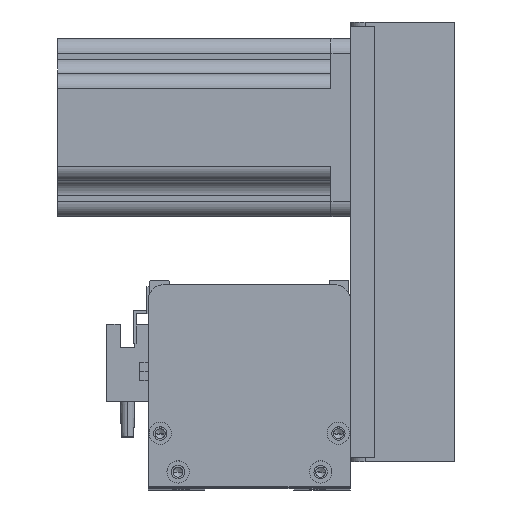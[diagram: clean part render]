
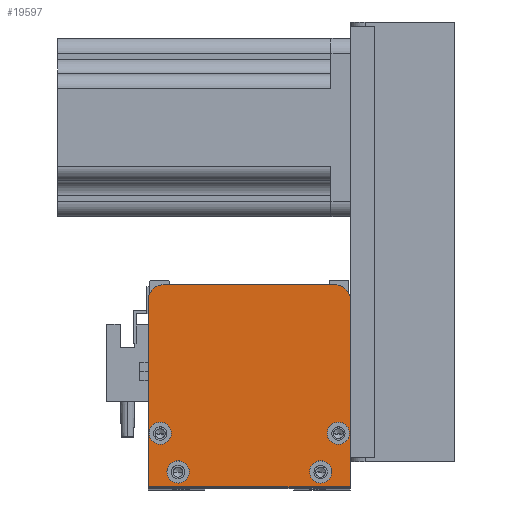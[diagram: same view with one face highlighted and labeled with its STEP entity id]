
A CAD part, top view. The second image highlights one B-rep face of the part: STEP entity #19597.
In plain terms, the highlighted planar face has unit normal (0, 0, 1).
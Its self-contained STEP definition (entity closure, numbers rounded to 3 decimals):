
#33 = VERTEX_POINT ( 'NONE', #32051 ) ;
#227 = ORIENTED_EDGE ( 'NONE', *, *, #37939, .T. ) ;
#356 = ORIENTED_EDGE ( 'NONE', *, *, #33384, .F. ) ;
#443 = CARTESIAN_POINT ( 'NONE',  ( 0., 0., 64. ) ) ;
#958 = CARTESIAN_POINT ( 'NONE',  ( 0., 0., 64. ) ) ;
#1157 = DIRECTION ( 'NONE',  ( 1., 0., 0. ) ) ;
#1579 = ORIENTED_EDGE ( 'NONE', *, *, #30630, .F. ) ;
#1649 = DIRECTION ( 'NONE',  ( 1., 0., 0. ) ) ;
#2023 = DIRECTION ( 'NONE',  ( 1., 0., 0. ) ) ;
#2025 = CARTESIAN_POINT ( 'NONE',  ( 68., 0., 64. ) ) ;
#2621 = CARTESIAN_POINT ( 'NONE',  ( 4., 18., 64. ) ) ;
#2710 = DIRECTION ( 'NONE',  ( 0., 0., 1. ) ) ;
#2852 = CARTESIAN_POINT ( 'NONE',  ( 10., 5., 64. ) ) ;
#2897 = DIRECTION ( 'NONE',  ( 1., 0., 0. ) ) ;
#4249 = EDGE_CURVE ( 'NONE', #51314, #53806, #37775, .T. ) ;
#5397 = CIRCLE ( 'NONE', #55612, 5. ) ;
#5558 = ORIENTED_EDGE ( 'NONE', *, *, #4249, .F. ) ;
#5579 = ORIENTED_EDGE ( 'NONE', *, *, #49804, .T. ) ;
#5935 = DIRECTION ( 'NONE',  ( 1., 0., 0. ) ) ;
#5943 = EDGE_CURVE ( 'NONE', #30566, #42945, #40080, .T. ) ;
#6919 = DIRECTION ( 'NONE',  ( 0., 0., 1. ) ) ;
#7879 = DIRECTION ( 'NONE',  ( 1., 0., 0. ) ) ;
#7958 = VERTEX_POINT ( 'NONE', #41734 ) ;
#8096 = ORIENTED_EDGE ( 'NONE', *, *, #45119, .T. ) ;
#8438 = VECTOR ( 'NONE', #46441, 1000. ) ;
#8457 = VECTOR ( 'NONE', #5935, 1000. ) ;
#9682 = FACE_BOUND ( 'NONE', #42524, .T. ) ;
#9798 = CIRCLE ( 'NONE', #46524, 3.75 ) ;
#10206 = DIRECTION ( 'NONE',  ( 0., 0., 1. ) ) ;
#10436 = ORIENTED_EDGE ( 'NONE', *, *, #24068, .F. ) ;
#10631 = DIRECTION ( 'NONE',  ( -1., 0., 0. ) ) ;
#11410 = EDGE_CURVE ( 'NONE', #53790, #15434, #9798, .T. ) ;
#11419 = VERTEX_POINT ( 'NONE', #958 ) ;
#11984 = ORIENTED_EDGE ( 'NONE', *, *, #11410, .F. ) ;
#13417 = CARTESIAN_POINT ( 'NONE',  ( 67.75, 18., 64. ) ) ;
#15009 = CARTESIAN_POINT ( 'NONE',  ( 58., 5., 64. ) ) ;
#15298 = CARTESIAN_POINT ( 'NONE',  ( 68., 68., 64. ) ) ;
#15311 = ORIENTED_EDGE ( 'NONE', *, *, #22834, .T. ) ;
#15434 = VERTEX_POINT ( 'NONE', #13417 ) ;
#15846 = EDGE_CURVE ( 'NONE', #42945, #33, #5397, .T. ) ;
#16639 = EDGE_LOOP ( 'NONE', ( #54405, #44405 ) ) ;
#16696 = EDGE_LOOP ( 'NONE', ( #1579, #11984 ) ) ;
#16735 = CARTESIAN_POINT ( 'NONE',  ( 13.75, 5., 64. ) ) ;
#16903 = CIRCLE ( 'NONE', #56745, 3.75 ) ;
#17510 = LINE ( 'NONE', #2025, #8457 ) ;
#17617 = DIRECTION ( 'NONE',  ( 0., 1., 0. ) ) ;
#17678 = PLANE ( 'NONE',  #24988 ) ;
#18545 = CARTESIAN_POINT ( 'NONE',  ( 6.25, 5., 64. ) ) ;
#18701 = EDGE_CURVE ( 'NONE', #53806, #51314, #42031, .T. ) ;
#19443 = VERTEX_POINT ( 'NONE', #52358 ) ;
#19590 = CARTESIAN_POINT ( 'NONE',  ( 68., 0., 64. ) ) ;
#19597 = ADVANCED_FACE ( 'NONE', ( #56845, #45033, #9682, #21460, #43637 ), #17678, .T. ) ;
#20858 = CARTESIAN_POINT ( 'NONE',  ( 7.75, 18., 64. ) ) ;
#21394 = VERTEX_POINT ( 'NONE', #53226 ) ;
#21460 = FACE_BOUND ( 'NONE', #22541, .T. ) ;
#22141 = VECTOR ( 'NONE', #10631, 1000. ) ;
#22541 = EDGE_LOOP ( 'NONE', ( #10436, #356 ) ) ;
#22683 = DIRECTION ( 'NONE',  ( 1., 0., 0. ) ) ;
#22834 = EDGE_CURVE ( 'NONE', #11419, #37058, #17510, .T. ) ;
#23943 = DIRECTION ( 'NONE',  ( 1., 0., 0. ) ) ;
#24068 = EDGE_CURVE ( 'NONE', #7958, #21394, #16903, .T. ) ;
#24988 = AXIS2_PLACEMENT_3D ( 'NONE', #443, #44340, #22683 ) ;
#25347 = CARTESIAN_POINT ( 'NONE',  ( 10., 5., 64. ) ) ;
#25496 = DIRECTION ( 'NONE',  ( 0., 0., 1. ) ) ;
#25646 = AXIS2_PLACEMENT_3D ( 'NONE', #25347, #43119, #7879 ) ;
#26477 = CARTESIAN_POINT ( 'NONE',  ( 68., 0., 64. ) ) ;
#28178 = CIRCLE ( 'NONE', #47378, 3.75 ) ;
#28302 = DIRECTION ( 'NONE',  ( 0., 0., 1. ) ) ;
#28323 = AXIS2_PLACEMENT_3D ( 'NONE', #37413, #10206, #23943 ) ;
#28374 = CARTESIAN_POINT ( 'NONE',  ( 0., 0., 64. ) ) ;
#28387 = VECTOR ( 'NONE', #17617, 1000. ) ;
#29122 = CARTESIAN_POINT ( 'NONE',  ( 58., 5., 64. ) ) ;
#29203 = ORIENTED_EDGE ( 'NONE', *, *, #18701, .F. ) ;
#29230 = AXIS2_PLACEMENT_3D ( 'NONE', #45974, #28302, #1649 ) ;
#30566 = VERTEX_POINT ( 'NONE', #36469 ) ;
#30630 = EDGE_CURVE ( 'NONE', #15434, #53790, #37873, .T. ) ;
#31158 = VERTEX_POINT ( 'NONE', #20858 ) ;
#32051 = CARTESIAN_POINT ( 'NONE',  ( 0., 63., 64. ) ) ;
#32402 = DIRECTION ( 'NONE',  ( 1., 0., 0. ) ) ;
#33132 = DIRECTION ( 'NONE',  ( 1., 0., 0. ) ) ;
#33384 = EDGE_CURVE ( 'NONE', #21394, #7958, #28178, .T. ) ;
#34159 = DIRECTION ( 'NONE',  ( 1., 0., 0. ) ) ;
#36131 = DIRECTION ( 'NONE',  ( 0., 0., 1. ) ) ;
#36461 = ORIENTED_EDGE ( 'NONE', *, *, #5943, .T. ) ;
#36469 = CARTESIAN_POINT ( 'NONE',  ( 63., 68., 64. ) ) ;
#37058 = VERTEX_POINT ( 'NONE', #19590 ) ;
#37251 = CARTESIAN_POINT ( 'NONE',  ( 0.25, 18., 64. ) ) ;
#37413 = CARTESIAN_POINT ( 'NONE',  ( 4., 18., 64. ) ) ;
#37775 = CIRCLE ( 'NONE', #38689, 3.75 ) ;
#37873 = CIRCLE ( 'NONE', #37965, 3.75 ) ;
#37939 = EDGE_CURVE ( 'NONE', #33, #11419, #54238, .T. ) ;
#37965 = AXIS2_PLACEMENT_3D ( 'NONE', #54551, #41879, #33132 ) ;
#38563 = CARTESIAN_POINT ( 'NONE',  ( 5., 68., 64. ) ) ;
#38689 = AXIS2_PLACEMENT_3D ( 'NONE', #2852, #25496, #34159 ) ;
#40080 = LINE ( 'NONE', #15298, #22141 ) ;
#40218 = CIRCLE ( 'NONE', #48642, 3.75 ) ;
#41169 = CARTESIAN_POINT ( 'NONE',  ( 64., 18., 64. ) ) ;
#41734 = CARTESIAN_POINT ( 'NONE',  ( 61.75, 5., 64. ) ) ;
#41879 = DIRECTION ( 'NONE',  ( 0., 0., 1. ) ) ;
#42031 = CIRCLE ( 'NONE', #25646, 3.75 ) ;
#42319 = DIRECTION ( 'NONE',  ( 1., 0., 0. ) ) ;
#42524 = EDGE_LOOP ( 'NONE', ( #29203, #5558 ) ) ;
#42945 = VERTEX_POINT ( 'NONE', #38563 ) ;
#43119 = DIRECTION ( 'NONE',  ( 0., 0., 1. ) ) ;
#43637 = FACE_OUTER_BOUND ( 'NONE', #55454, .T. ) ;
#44340 = DIRECTION ( 'NONE',  ( 0., 0., 1. ) ) ;
#44405 = ORIENTED_EDGE ( 'NONE', *, *, #51515, .F. ) ;
#45033 = FACE_BOUND ( 'NONE', #16639, .T. ) ;
#45119 = EDGE_CURVE ( 'NONE', #37058, #19443, #47128, .T. ) ;
#45265 = EDGE_CURVE ( 'NONE', #31158, #57116, #51306, .T. ) ;
#45974 = CARTESIAN_POINT ( 'NONE',  ( 63., 63., 64. ) ) ;
#46185 = DIRECTION ( 'NONE',  ( 0., 0., 1. ) ) ;
#46441 = DIRECTION ( 'NONE',  ( 0., -1., 0. ) ) ;
#46524 = AXIS2_PLACEMENT_3D ( 'NONE', #41169, #36131, #1157 ) ;
#47022 = CIRCLE ( 'NONE', #29230, 5. ) ;
#47128 = LINE ( 'NONE', #26477, #28387 ) ;
#47234 = CARTESIAN_POINT ( 'NONE',  ( 5., 63., 64. ) ) ;
#47378 = AXIS2_PLACEMENT_3D ( 'NONE', #15009, #50437, #32402 ) ;
#48426 = ORIENTED_EDGE ( 'NONE', *, *, #15846, .T. ) ;
#48642 = AXIS2_PLACEMENT_3D ( 'NONE', #2621, #46185, #2023 ) ;
#49804 = EDGE_CURVE ( 'NONE', #19443, #30566, #47022, .T. ) ;
#50437 = DIRECTION ( 'NONE',  ( 0., 0., 1. ) ) ;
#51306 = CIRCLE ( 'NONE', #28323, 3.75 ) ;
#51314 = VERTEX_POINT ( 'NONE', #18545 ) ;
#51515 = EDGE_CURVE ( 'NONE', #57116, #31158, #40218, .T. ) ;
#51638 = CARTESIAN_POINT ( 'NONE',  ( 60.25, 18., 64. ) ) ;
#52358 = CARTESIAN_POINT ( 'NONE',  ( 68., 63., 64. ) ) ;
#53226 = CARTESIAN_POINT ( 'NONE',  ( 54.25, 5., 64. ) ) ;
#53790 = VERTEX_POINT ( 'NONE', #51638 ) ;
#53806 = VERTEX_POINT ( 'NONE', #16735 ) ;
#54238 = LINE ( 'NONE', #28374, #8438 ) ;
#54405 = ORIENTED_EDGE ( 'NONE', *, *, #45265, .F. ) ;
#54551 = CARTESIAN_POINT ( 'NONE',  ( 64., 18., 64. ) ) ;
#55454 = EDGE_LOOP ( 'NONE', ( #36461, #48426, #227, #15311, #8096, #5579 ) ) ;
#55612 = AXIS2_PLACEMENT_3D ( 'NONE', #47234, #2710, #2897 ) ;
#56745 = AXIS2_PLACEMENT_3D ( 'NONE', #29122, #6919, #42319 ) ;
#56845 = FACE_BOUND ( 'NONE', #16696, .T. ) ;
#57116 = VERTEX_POINT ( 'NONE', #37251 ) ;
